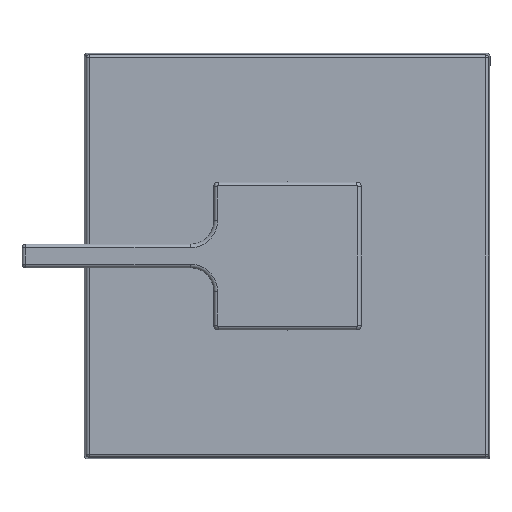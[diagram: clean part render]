
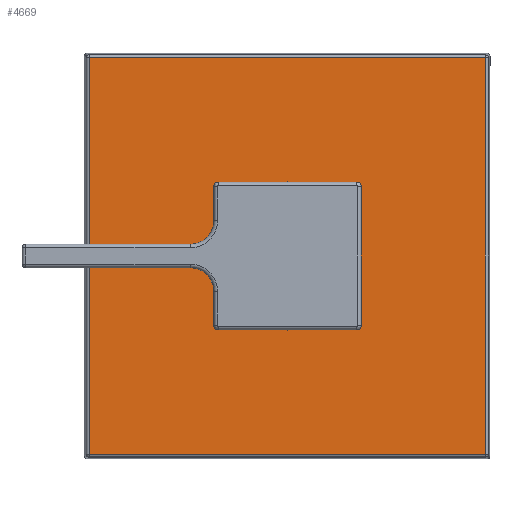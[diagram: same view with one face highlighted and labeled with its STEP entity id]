
A CAD part, front view. The second image highlights one B-rep face of the part: STEP entity #4669.
In plain terms, the highlighted planar face has unit normal (0, -1, 0).
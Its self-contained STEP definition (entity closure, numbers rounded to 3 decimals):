
#72=FACE_BOUND('',#794,.T.);
#315=CIRCLE('',#5103,25.1);
#515=FACE_OUTER_BOUND('',#793,.T.);
#793=EDGE_LOOP('',(#3532,#3533,#3534,#3535));
#794=EDGE_LOOP('',(#3536));
#1092=LINE('',#7839,#1516);
#1093=LINE('',#7841,#1517);
#1094=LINE('',#7843,#1518);
#1095=LINE('',#7844,#1519);
#1516=VECTOR('',#6074,134.344);
#1517=VECTOR('',#6075,134.344);
#1518=VECTOR('',#6076,134.344);
#1519=VECTOR('',#6077,134.344);
#1984=VERTEX_POINT('',#7817);
#1990=VERTEX_POINT('',#7837);
#1991=VERTEX_POINT('',#7838);
#1992=VERTEX_POINT('',#7840);
#1993=VERTEX_POINT('',#7842);
#2528=EDGE_CURVE('',#1984,#1984,#315,.T.);
#2534=EDGE_CURVE('',#1990,#1991,#1092,.T.);
#2535=EDGE_CURVE('',#1992,#1990,#1093,.T.);
#2536=EDGE_CURVE('',#1993,#1992,#1094,.T.);
#2537=EDGE_CURVE('',#1991,#1993,#1095,.T.);
#3532=ORIENTED_EDGE('',*,*,#2534,.F.);
#3533=ORIENTED_EDGE('',*,*,#2535,.F.);
#3534=ORIENTED_EDGE('',*,*,#2536,.F.);
#3535=ORIENTED_EDGE('',*,*,#2537,.F.);
#3536=ORIENTED_EDGE('',*,*,#2528,.T.);
#4143=PLANE('',#5116);
#4669=ADVANCED_FACE('',(#515,#72),#4143,.T.);
#5103=AXIS2_PLACEMENT_3D('',#7818,#6046,#6047);
#5116=AXIS2_PLACEMENT_3D('',#7836,#6072,#6073);
#6046=DIRECTION('center_axis',(0.,1.,0.));
#6047=DIRECTION('ref_axis',(-1.,0.,0.));
#6072=DIRECTION('center_axis',(0.,-1.,0.));
#6073=DIRECTION('ref_axis',(0.,0.,-1.));
#6074=DIRECTION('',(0.,0.,-1.));
#6075=DIRECTION('',(1.,0.,0.));
#6076=DIRECTION('',(0.,0.,1.));
#6077=DIRECTION('',(-1.,0.,0.));
#7817=CARTESIAN_POINT('',(25.1,-12.,0.));
#7818=CARTESIAN_POINT('Origin',(0.,-12.,0.));
#7836=CARTESIAN_POINT('Origin',(0.,-12.,0.));
#7837=CARTESIAN_POINT('',(67.172,-12.,67.172));
#7838=CARTESIAN_POINT('',(67.172,-12.,-67.172));
#7839=CARTESIAN_POINT('',(67.172,-12.,34.375));
#7840=CARTESIAN_POINT('',(-67.172,-12.,67.172));
#7841=CARTESIAN_POINT('',(-34.375,-12.,67.172));
#7842=CARTESIAN_POINT('',(-67.172,-12.,-67.172));
#7843=CARTESIAN_POINT('',(-67.172,-12.,-34.375));
#7844=CARTESIAN_POINT('',(34.375,-12.,-67.172));
